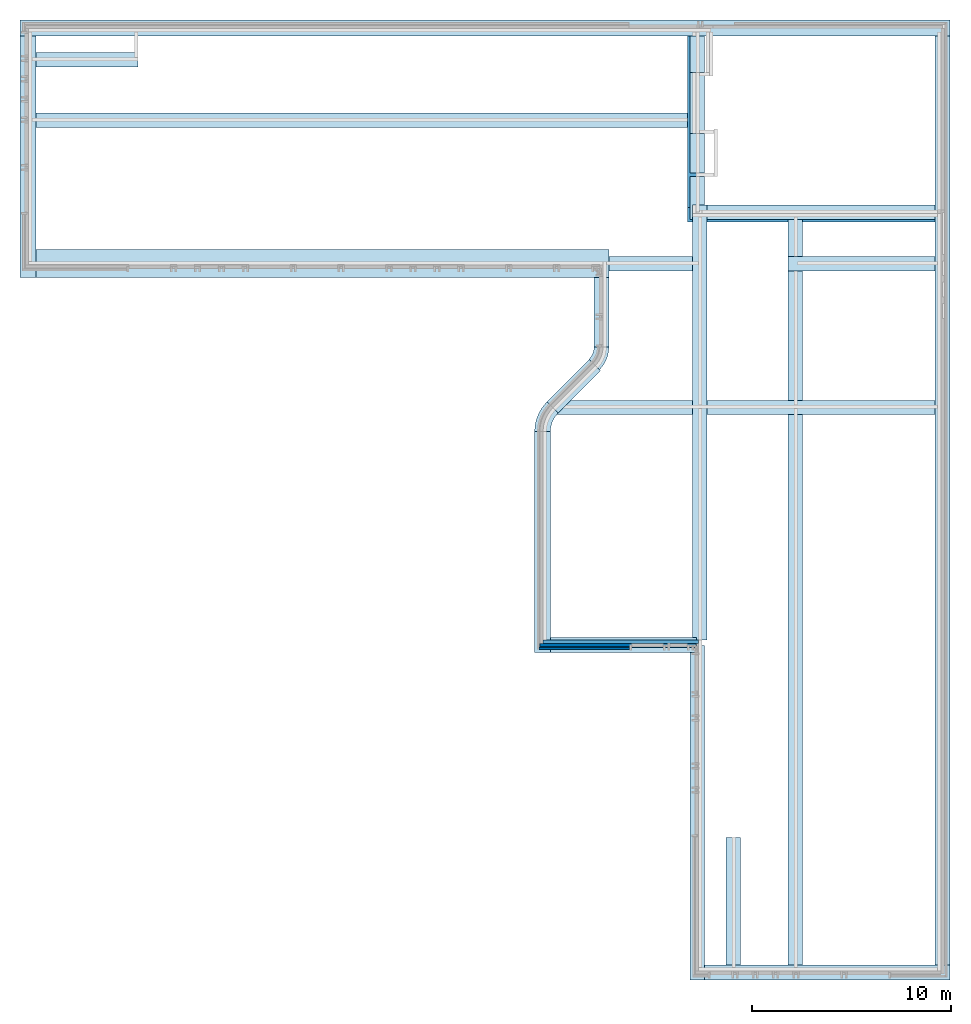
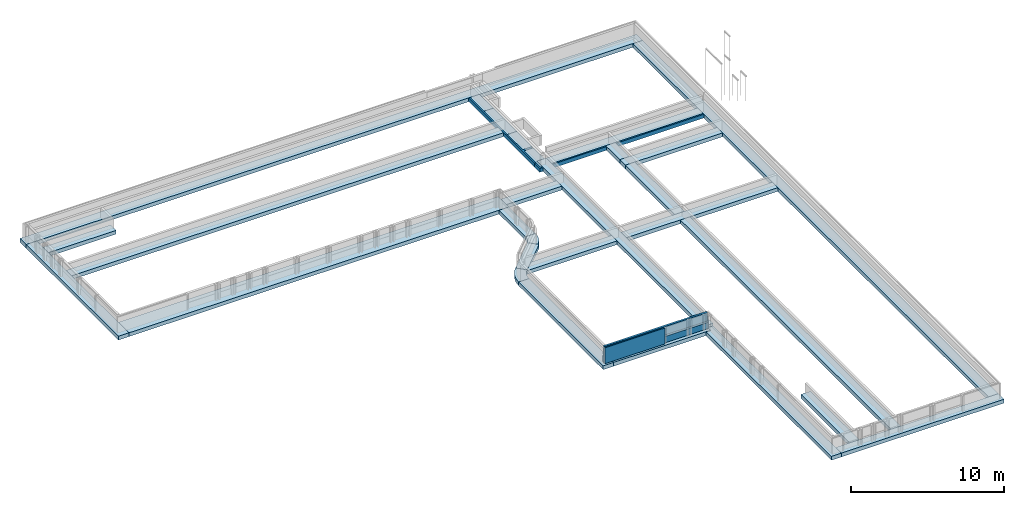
# One storey, part 1 of 15: 27 footings, 4 walls.
"""IFC2X3 building model written with IfcOpenShell, lengths in millimetres."""

from ifc_helpers import new_model, entity, si_unit, converted_unit, derived_unit, direction, frame, frame_2d, origin, origin_2d_with_axis, place, context, subcontext, project, spatial, polyline, circle_curve, parameter, trimmed, segment, composite_curve, rectangle, outline, extrude, material, layer, layer_set, layer_usage, type_object, element, save


model = new_model("IFC2X3")

# Units and contexts
model_context = context("Model", 3, precision=0.01, world=origin(), true_north=direction((6.123031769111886e-17, 1.0)))
body_context = subcontext(model_context, "Body", "Model", "MODEL_VIEW")
ifc_project = project(units=[si_unit("LENGTHUNIT", "METRE", prefix="MILLI"), si_unit("AREAUNIT", "SQUARE_METRE"), si_unit("VOLUMEUNIT", "CUBIC_METRE"), converted_unit("PLANEANGLEUNIT", "DEGREE", entity("IfcRatioMeasure", 0.017453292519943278), si_unit("PLANEANGLEUNIT", "RADIAN"), dimensions=[0, 0, 0, 0, 0, 0, 0]), si_unit("MASSUNIT", "GRAM", prefix="KILO"), derived_unit("MASSDENSITYUNIT", [(si_unit("MASSUNIT", "GRAM", prefix="KILO"), 1), (si_unit("LENGTHUNIT", "METRE"), -3)]), derived_unit("IONCONCENTRATIONUNIT", [(si_unit("MASSUNIT", "GRAM", prefix="KILO"), 1), (si_unit("LENGTHUNIT", "METRE"), -3)]), derived_unit("MOMENTOFINERTIAUNIT", [(si_unit("LENGTHUNIT", "METRE"), 4)]), si_unit("TIMEUNIT", "SECOND"), si_unit("FREQUENCYUNIT", "HERTZ"), si_unit("THERMODYNAMICTEMPERATUREUNIT", "DEGREE_CELSIUS"), derived_unit("THERMALTRANSMITTANCEUNIT", [(si_unit("MASSUNIT", "GRAM", prefix="KILO"), 1), (si_unit("THERMODYNAMICTEMPERATUREUNIT", "KELVIN"), -1), (si_unit("TIMEUNIT", "SECOND"), -3)]), derived_unit("THERMALCONDUCTANCEUNIT", [(si_unit("MASSUNIT", "GRAM", prefix="KILO"), 1), (si_unit("THERMODYNAMICTEMPERATUREUNIT", "KELVIN"), -1), (si_unit("TIMEUNIT", "SECOND"), -3), (si_unit("LENGTHUNIT", "METRE"), 1)]), derived_unit("VOLUMETRICFLOWRATEUNIT", [(si_unit("LENGTHUNIT", "METRE"), 3), (si_unit("TIMEUNIT", "SECOND"), -1)]), derived_unit("MASSFLOWRATEUNIT", [(si_unit("MASSUNIT", "GRAM", prefix="KILO"), 1), (si_unit("TIMEUNIT", "SECOND"), -1)]), derived_unit("ROTATIONALFREQUENCYUNIT", [(si_unit("TIMEUNIT", "SECOND"), -1)]), si_unit("ELECTRICCURRENTUNIT", "AMPERE"), si_unit("ELECTRICVOLTAGEUNIT", "VOLT"), si_unit("POWERUNIT", "WATT"), si_unit("FORCEUNIT", "NEWTON", prefix="KILO"), si_unit("ILLUMINANCEUNIT", "LUX"), si_unit("LUMINOUSFLUXUNIT", "LUMEN"), si_unit("LUMINOUSINTENSITYUNIT", "CANDELA"), derived_unit("USERDEFINED", [(si_unit("MASSUNIT", "GRAM", prefix="KILO"), -1), (si_unit("LENGTHUNIT", "METRE"), -2), (si_unit("TIMEUNIT", "SECOND"), 3), (si_unit("LUMINOUSFLUXUNIT", "LUMEN"), 1)]), derived_unit("USERDEFINED", [(si_unit("MASSUNIT", "GRAM", prefix="KILO"), 1), (si_unit("TIMEUNIT", "SECOND"), -3), (si_unit("LENGTHUNIT", "METRE"), 3), (si_unit("ELECTRICCURRENTUNIT", "AMPERE"), -2)]), derived_unit("SOUNDPOWERUNIT", [(si_unit("MASSUNIT", "GRAM", prefix="KILO"), 1), (si_unit("TIMEUNIT", "SECOND"), -3), (si_unit("LENGTHUNIT", "METRE"), 2)]), derived_unit("SOUNDPRESSUREUNIT", [(si_unit("MASSUNIT", "GRAM", prefix="KILO"), 1), (si_unit("LENGTHUNIT", "METRE"), -1), (si_unit("TIMEUNIT", "SECOND"), -2)]), derived_unit("LINEARVELOCITYUNIT", [(si_unit("LENGTHUNIT", "METRE"), 1), (si_unit("TIMEUNIT", "SECOND"), -1)]), si_unit("PRESSUREUNIT", "PASCAL"), derived_unit("USERDEFINED", [(si_unit("MASSUNIT", "GRAM", prefix="KILO"), 1), (si_unit("LENGTHUNIT", "METRE"), -2), (si_unit("TIMEUNIT", "SECOND"), -2)]), derived_unit("LINEARFORCEUNIT", [(si_unit("MASSUNIT", "GRAM", prefix="KILO"), 1), (si_unit("TIMEUNIT", "SECOND"), -2)]), derived_unit("PLANARFORCEUNIT", [(si_unit("MASSUNIT", "GRAM", prefix="KILO"), 1), (si_unit("LENGTHUNIT", "METRE"), -1), (si_unit("TIMEUNIT", "SECOND"), -2)]), derived_unit("SPECIFICHEATCAPACITYUNIT", [(si_unit("THERMODYNAMICTEMPERATUREUNIT", "KELVIN"), -1), (si_unit("LENGTHUNIT", "METRE"), 2), (si_unit("TIMEUNIT", "SECOND"), -2)]), derived_unit("HEATINGVALUEUNIT", [(si_unit("LENGTHUNIT", "METRE"), 2), (si_unit("TIMEUNIT", "SECOND"), -2)]), derived_unit("VAPORPERMEABILITYUNIT", [(si_unit("LENGTHUNIT", "METRE"), -1), (si_unit("TIMEUNIT", "SECOND"), 1)]), derived_unit("DYNAMICVISCOSITYUNIT", [(si_unit("MASSUNIT", "GRAM", prefix="KILO"), 1), (si_unit("TIMEUNIT", "SECOND"), -1), (si_unit("LENGTHUNIT", "METRE"), -1)]), derived_unit("THERMALEXPANSIONCOEFFICIENTUNIT", [(si_unit("THERMODYNAMICTEMPERATUREUNIT", "KELVIN"), -1)]), derived_unit("MODULUSOFELASTICITYUNIT", [(si_unit("MASSUNIT", "GRAM", prefix="KILO"), 1), (si_unit("LENGTHUNIT", "METRE"), -1), (si_unit("TIMEUNIT", "SECOND"), -2)]), derived_unit("ISOTHERMALMOISTURECAPACITYUNIT", [(si_unit("LENGTHUNIT", "METRE"), 3), (si_unit("MASSUNIT", "GRAM", prefix="KILO"), -1)]), derived_unit("MOISTUREDIFFUSIVITYUNIT", [(si_unit("TIMEUNIT", "SECOND"), -1), (si_unit("LENGTHUNIT", "METRE"), 2)])], contexts=[model_context])

# Site, building, storey
site_placement = place(None, frame((0.0, 300.0, 0.0)))
site = spatial("IfcSite", under=ifc_project, at=site_placement, Name="<Kadastrale nummers>", CompositionType="ELEMENT")
building_placement = place(site_placement, origin())
building = spatial("IfcBuilding", under=site, at=building_placement, CompositionType="ELEMENT")
storey_placement = place(building_placement, frame((0.0, 0.0, -1570.0)))
storey = spatial("IfcBuildingStorey", under=building, at=storey_placement, Name="-1 fundering", CompositionType="ELEMENT", Elevation=-1570.0)

# Footings
footing_1_placement = place(storey_placement, origin())
element("IfcFooting", 1, at=footing_1_placement, inside=storey, Name="Wall Foundation:300_16_strokenfundatie_300x800", ObjectType="Wall Foundation:300_16_strokenfundatie_300x800", PredefinedType="STRIP_FOOTING", context=body_context, shape_type="SweptSolid", body=[
    extrude(rectangle(XDim=46624.999999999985, YDim=795.0000000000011, at=frame_2d((-3496.402201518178, 220.83333333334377), x_axis=(1.0, 0.0))), frame((29308.902201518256, 49681.666666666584, 0.0)), (0.0, 0.0, 1.0), 300.0),
])
footing_2_placement = place(storey_placement, origin())
element("IfcFooting", 2, at=footing_2_placement, inside=storey, Name="Wall Foundation:300_16_strokenfundatie_300x800", ObjectType="Wall Foundation:300_16_strokenfundatie_300x800", PredefinedType="STRIP_FOOTING", context=body_context, shape_type="SweptSolid", body=[
    extrude(rectangle(XDim=12104.999999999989, YDim=795.0000000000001, at=frame_2d((-968.6111111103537, 220.83333333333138), x_axis=(1.0, 0.0))), frame((3118.333333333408, 44421.11111111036, 0.0), z_axis=(0.0, 0.0, 1.0), x_axis=(0.0, 1.0, 0.0)), (0.0, 0.0, 1.0), 300.0),
])
footing_3_placement = place(storey_placement, origin())
element("IfcFooting", 3, at=footing_3_placement, inside=storey, Name="Wall Foundation:300_16_strokenfundatie_300x1400", ObjectType="Wall Foundation:300_16_strokenfundatie_300x1400", PredefinedType="STRIP_FOOTING", context=body_context, shape_type="SweptSolid", body=[
    extrude(rectangle(XDim=28725.03691673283, YDim=1394.999999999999, at=frame_2d((6048.936482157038, -102.50000000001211), x_axis=(1.0, 0.0))), frame((23706.45494052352, 37995.0, 0.0), z_axis=(0.0, 0.0, 1.0), x_axis=(-1.0, 0.0, 0.0)), (0.0, 0.0, 1.0), 300.0),
])
footing_4_placement = place(storey_placement, origin())
element("IfcFooting", 4, at=footing_4_placement, inside=storey, Name="Wall Foundation:300_16_strokenfundatie_bi350/bu250/hg350", ObjectType="Wall Foundation:300_16_strokenfundatie_bi350/bu250/hg350", PredefinedType="STRIP_FOOTING", context=body_context, shape_type="SweptSolid", body=[
    extrude(rectangle(XDim=3488.0968310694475, YDim=744.9999999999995, at=frame_2d((-4.320099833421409e-12, -2.1600499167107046e-12), x_axis=(1.0, 0.0))), frame((31647.536916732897, 35655.9515844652, 0.0), z_axis=(0.0, 0.0, 1.0), x_axis=(0.0, 1.0, 0.0)), (0.0, 0.0, 1.0), 300.0),
])
footing_5_placement = place(storey_placement, origin())
element("IfcFooting", 5, at=footing_5_placement, inside=storey, Name="Wall Foundation:300_16_strokenfundatie_bi350/bu250/hg350", ObjectType="Wall Foundation:300_16_strokenfundatie_bi350/bu250/hg350", PredefinedType="STRIP_FOOTING", context=body_context, shape_type="SweptSolid", body=[
    extrude(outline(composite_curve([segment(trimmed(circle_curve(frame_2d((-1031.8462838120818, -352.8462838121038), x_axis=(1.0, 0.0)), 1620.0000000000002), [parameter(0.0)], [parameter(45.00000000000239)], True, "PARAMETER"), True, "CONTINUOUS"), segment(polyline([(113.66670171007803, 792.6667017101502), (-413.12785027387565, 265.8721497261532)]), True, "CONTINUOUS"), segment(trimmed(circle_curve(frame_2d((-1031.8462838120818, -352.8462838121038), x_axis=(1.0, 0.0)), 875.0000000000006), [parameter(0.0)], [parameter(45.00000000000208)], True, "PARAMETER"), False, "CONTINUOUS"), segment(polyline([(-156.8462838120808, -352.84628381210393), (-131.8462838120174, -352.8462838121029)]), True, "CONTINUOUS"), segment(polyline([(-131.8462838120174, -352.8462838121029), (588.1537161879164, -352.84628381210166)]), True, "CONTINUOUS")], self_intersect=False)), frame((31379.162421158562, 33431.77766450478, 0.0), z_axis=(0.0, 0.0, 1.0), x_axis=(0.7071067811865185, -0.7071067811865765, 0.0)), (0.0, 0.0, 1.0), 300.0),
])
footing_6_placement = place(storey_placement, origin())
element("IfcFooting", 6, at=footing_6_placement, inside=storey, Name="Wall Foundation:300_16_strokenfundatie_300x800", ObjectType="Wall Foundation:300_16_strokenfundatie_300x800", PredefinedType="STRIP_FOOTING", context=body_context, shape_type="SweptSolid", body=[
    extrude(rectangle(XDim=794.9999999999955, YDim=2999.9999999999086, at=frame_2d((-119.99999999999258, -152.13712787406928), x_axis=(1.0, 0.0))), frame((30449.277802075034, 31956.496329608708, 0.0), z_axis=(0.0, 0.0, 1.0), x_axis=(0.7071067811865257, -0.7071067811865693, 0.0)), (0.0, 0.0, 1.0), 300.0),
])
footing_7_placement = place(storey_placement, origin())
element("IfcFooting", 7, at=footing_7_placement, inside=storey, Name="Wall Foundation:300_16_strokenfundatie_300x800", ObjectType="Wall Foundation:300_16_strokenfundatie_300x800", PredefinedType="STRIP_FOOTING", context=body_context, shape_type="SweptSolid", body=[
    extrude(outline(composite_curve([segment(polyline([(-741.8437169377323, -654.3261742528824), (53.15628306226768, -654.3261742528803)]), True, "CONTINUOUS"), segment(trimmed(circle_curve(frame_2d((1358.1562830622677, -654.3261742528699), x_axis=(-1.0, 0.0)), 1304.999999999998), [parameter(318.5461116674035)], [parameter(359.9999999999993)], True, "PARAMETER"), False, "CONTINUOUS"), segment(trimmed(circle_curve(frame_2d((1358.1562830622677, -654.3261742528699), x_axis=(-1.0, 0.0)), 1304.999999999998), [parameter(314.9999999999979)], [parameter(318.5461116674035)], True, "PARAMETER"), False, "CONTINUOUS"), segment(polyline([(435.38193361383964, 268.4481751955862), (-126.7679574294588, 830.5980662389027)]), True, "CONTINUOUS"), segment(trimmed(circle_curve(frame_2d((1358.1562830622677, -654.3261742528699), x_axis=(-1.0, 0.0)), 2099.999999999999), [parameter(314.9999999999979)], [parameter(359.99999999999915)], True, "PARAMETER"), True, "CONTINUOUS")], self_intersect=False)), frame((29041.88063367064, 30323.588656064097, 0.0)), (0.0, 0.0, 1.0), 300.0),
])
footing_8_placement = place(storey_placement, origin())
element("IfcFooting", 8, at=footing_8_placement, inside=storey, Name="Wall Foundation:300_16_strokenfundatie_300x800", ObjectType="Wall Foundation:300_16_strokenfundatie_300x800", PredefinedType="STRIP_FOOTING", context=body_context, shape_type="SweptSolid", body=[
    extrude(rectangle(XDim=795.0000000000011, YDim=11064.263858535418, at=frame_2d((-79.49999999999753, 957.4263858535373), x_axis=(1.0, 0.0))), frame((28777.036916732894, 23179.70416668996, 0.0)), (0.0, 0.0, 1.0), 300.0),
])
footing_9_placement = place(storey_placement, origin())
element("IfcFooting", 9, at=footing_9_placement, inside=storey, Name="Wall Foundation:300_16_strokenfundatie_bi350/bu250/hg350", ObjectType="Wall Foundation:300_16_strokenfundatie_bi350/bu250/hg350", PredefinedType="STRIP_FOOTING", context=body_context, shape_type="SweptSolid", body=[
    extrude(rectangle(XDim=7329.963083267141, YDim=744.9999999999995, at=frame_2d((1763.7407708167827, 28.74999999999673), x_axis=(1.0, 0.0))), frame((34523.75922918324, 19006.248623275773, 0.0), z_axis=(0.0, 0.0, 1.0), x_axis=(-1.0, 0.0, 0.0)), (0.0, 0.0, 1.0), 300.0),
])
footing_10_placement = place(storey_placement, origin())
element("IfcFooting", 10, at=footing_10_placement, inside=storey, Name="Wall Foundation:300_16_strokenfundatie_bi350/bu250/hg350", ObjectType="Wall Foundation:300_16_strokenfundatie_bi350/bu250/hg350", PredefinedType="STRIP_FOOTING", context=body_context, shape_type="SweptSolid", body=[
    extrude(outline(polyline([(-325.71428571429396, -7185.0), (69.2857142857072, -7185.0), (69.2857142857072, -6835.0), (419.2857142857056, -6835.0), (419.28571428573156, 9595.0), (-325.714285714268, 9595.0), (-325.714285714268, 8850.0), (-325.71428571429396, -7185.0)])), frame((36494.28571428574, 11769.998623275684, 0.0), z_axis=(0.0, 0.0, 1.0), x_axis=(-1.0, 0.0, 0.0)), (0.0, 0.0, 1.0), 300.0),
])
footing_11_placement = place(storey_placement, origin())
element("IfcFooting", 11, at=footing_11_placement, inside=storey, Name="Wall Foundation:300_16_strokenfundatie_bi350/bu250/hg350", ObjectType="Wall Foundation:300_16_strokenfundatie_bi350/bu250/hg350", PredefinedType="STRIP_FOOTING", context=body_context, shape_type="SweptSolid", body=[
    extrude(rectangle(XDim=12304.999999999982, YDim=744.9999999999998, at=frame_2d((-803.6111111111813, 206.94444444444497), x_axis=(1.0, 0.0))), frame((42168.88888888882, 2754.443067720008, 0.0), z_axis=(0.0, 0.0, 1.0), x_axis=(-1.0, 0.0, 0.0)), (0.0, 0.0, 1.0), 300.0),
])
footing_12_placement = place(storey_placement, origin())
element("IfcFooting", 12, at=footing_12_placement, inside=storey, Name="Wall Foundation:300_16_strokenfundatie_bi350/bu250/hg350", ObjectType="Wall Foundation:300_16_strokenfundatie_bi350/bu250/hg350", PredefinedType="STRIP_FOOTING", context=body_context, shape_type="SweptSolid", body=[
    extrude(rectangle(XDim=46585.00137672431, YDim=745.0000000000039, at=frame_2d((6903.864074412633, 237.0454545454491), x_axis=(1.0, 0.0))), frame((48515.45454545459, 33116.36338605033, 0.0), z_axis=(0.0, 0.0, 1.0), x_axis=(0.0, -1.0, 0.0)), (0.0, 0.0, 1.0), 300.0),
])
footing_13_placement = place(storey_placement, origin())
element("IfcFooting", 13, at=footing_13_placement, inside=storey, Name="Wall Foundation:300_16_strokenfundatie_bi350/bu250/hg350", ObjectType="Wall Foundation:300_16_strokenfundatie_bi350/bu250/hg350", PredefinedType="STRIP_FOOTING", context=body_context, shape_type="SweptSolid", body=[
    extrude(rectangle(XDim=32675.039937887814, YDim=724.9999999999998, at=frame_2d((-9.094947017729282e-13, -4.320099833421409e-12), x_axis=(1.0, 0.0))), frame((19632.519968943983, 45275.0, 0.0), z_axis=(0.0, 0.0, 1.0), x_axis=(-1.0, 0.0, 0.0)), (0.0, 0.0, 1.0), 300.0),
])
footing_14_placement = place(storey_placement, origin())
element("IfcFooting", 14, at=footing_14_placement, inside=storey, Name="Wall Foundation:300_16_strokenfundatie_bi350/bu250/hg350", ObjectType="Wall Foundation:300_16_strokenfundatie_bi350/bu250/hg350", PredefinedType="STRIP_FOOTING", context=body_context, shape_type="SweptSolid", body=[
    extrude(outline(polyline([(-411.46823894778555, -8032.64738275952), (-266.5081768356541, -8032.64738275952), (313.5317610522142, -8032.64738275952), (313.5317610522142, -7302.647382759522), (313.5317610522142, -7192.647382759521), (313.53176105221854, -5457.647382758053), (313.53176105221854, -4732.647382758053), (313.53176105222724, 1754.8526172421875), (313.53176105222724, 2479.8526172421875), (313.5317610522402, 13642.35399396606), (113.53176105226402, 13642.35399396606), (113.53176105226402, 13762.353993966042), (-411.4682389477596, 13762.353993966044), (-411.46823894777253, 2479.8526172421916), (-411.46823894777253, 1754.8526172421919), (-411.46823894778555, -7192.647382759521), (-411.46823894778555, -7302.647382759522), (-411.46823894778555, -8032.64738275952)])), frame((36538.5317610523, 32992.35261724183, 0.0), z_axis=(0.0, 0.0, 1.0), x_axis=(-1.0, 0.0, 0.0)), (0.0, 0.0, 1.0), 300.0),
])
footing_15_placement = place(storey_placement, origin())
element("IfcFooting", 15, at=footing_15_placement, inside=storey, Name="Wall Foundation:300_16_strokenfundatie_bi350/bu250/hg350", ObjectType="Wall Foundation:300_16_strokenfundatie_bi350/bu250/hg350", PredefinedType="STRIP_FOOTING", context=body_context, shape_type="SweptSolid", body=[
    extrude(rectangle(XDim=4204.9630832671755, YDim=724.9999999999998, at=frame_2d((2.2737367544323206e-12, 2.1600499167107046e-12), x_axis=(1.0, 0.0))), frame((34122.51845836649, 38087.49999999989, 0.0), z_axis=(0.0, 0.0, 1.0), x_axis=(-1.0, 0.0, 0.0)), (0.0, 0.0, 1.0), 300.0),
])
footing_16_placement = place(storey_placement, origin())
element("IfcFooting", 16, at=footing_16_placement, inside=storey, Name="Wall Foundation:300_16_strokenfundatie_bi350/bu250/hg350", ObjectType="Wall Foundation:300_16_strokenfundatie_bi350/bu250/hg350", PredefinedType="STRIP_FOOTING", context=body_context, shape_type="SweptSolid", body=[
    extrude(rectangle(XDim=7367.49999999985, YDim=724.9999999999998, at=frame_2d((986.249999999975, -2.1884716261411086e-12), x_axis=(1.0, 0.0))), frame((43710.0, 38087.499999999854, 0.0)), (0.0, 0.0, 1.0), 300.0),
])
footing_17_placement = place(storey_placement, origin())
element("IfcFooting", 17, at=footing_17_placement, inside=storey, Name="Wall Foundation:300_16_strokenfundatie_bi350/bu250/hg350", ObjectType="Wall Foundation:300_16_strokenfundatie_bi350/bu250/hg350", PredefinedType="STRIP_FOOTING", context=body_context, shape_type="SweptSolid", body=[
    extrude(outline(composite_curve([segment(trimmed(circle_curve(frame_2d((1415.6124976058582, 1101.6094505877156), x_axis=(1.0, 0.0)), 1304.999999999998), [parameter(314.99999999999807)], [parameter(318.5461116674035)], True, "PARAMETER"), True, "CONTINUOUS"), segment(polyline([(2393.695322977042, 237.67716926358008), (2393.695322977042, 258.3719323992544)]), True, "CONTINUOUS"), segment(polyline([(2393.695322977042, 258.3719323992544), (-4409.350585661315, 258.37193239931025)]), True, "CONTINUOUS"), segment(polyline([(-4409.350585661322, 258.37193239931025), (-4409.350585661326, -466.62806760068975)]), True, "CONTINUOUS"), segment(polyline([(-4409.350585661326, -466.62806760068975), (1692.9236783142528, -466.6280676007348)]), True, "CONTINUOUS"), segment(polyline([(1692.9236783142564, -466.6280676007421), (2338.3868470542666, 178.83510113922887)]), True, "CONTINUOUS")], self_intersect=False)), frame((31815.64941433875, 30770.871932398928, 0.0), z_axis=(0.0, 0.0, 1.0), x_axis=(-1.0, 0.0, 0.0)), (0.0, 0.0, 1.0), 300.0),
    extrude(rectangle(XDim=11429.999999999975, YDim=724.9999999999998, at=frame_2d((-644.9999999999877, -1.9326762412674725e-12), x_axis=(1.0, 0.0))), frame((42020.0, 30875.0, 0.0), z_axis=(0.0, 0.0, 1.0), x_axis=(-1.0, 0.0, 0.0)), (0.0, 0.0, 1.0), 300.0),
])
footing_18_placement = place(storey_placement, origin())
element("IfcFooting", 18, at=footing_18_placement, inside=storey, Name="Wall Foundation:300_16_strokenfundatie_bi350/bu250/hg350", ObjectType="Wall Foundation:300_16_strokenfundatie_bi350/bu250/hg350", PredefinedType="STRIP_FOOTING", context=body_context, shape_type="SweptSolid", body=[
    extrude(rectangle(XDim=724.9999999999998, YDim=1845.0000000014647, at=frame_2d((0.0, 270.83333333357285), x_axis=(1.0, 0.0))), frame((41375.0, 39643.33333333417, 0.0), z_axis=(0.0, 0.0, 1.0), x_axis=(-1.0, 0.0, 0.0)), (0.0, 0.0, 1.0), 300.0),
    extrude(rectangle(XDim=27592.50137672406, YDim=724.9999999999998, at=frame_2d((0.0, 8.640199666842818e-12), x_axis=(1.0, 0.0))), frame((41375.0, 16716.249311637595, 0.0), z_axis=(0.0, 0.0, 1.0), x_axis=(0.0, 1.0, 0.0)), (0.0, 0.0, 1.0), 300.0),
    extrude(rectangle(XDim=6487.500000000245, YDim=724.9999999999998, at=origin_2d_with_axis()), frame((41375.0, 34481.249999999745, 0.0), z_axis=(0.0, 0.0, 1.0), x_axis=(0.0, -1.0, 0.0)), (0.0, 0.0, 1.0), 300.0),
])
footing_19_placement = place(storey_placement, origin())
element("IfcFooting", 19, at=footing_19_placement, inside=storey, Name="Wall Foundation:300_16_strokenfundatie_bi350/bu250/hg350", ObjectType="Wall Foundation:300_16_strokenfundatie_bi350/bu250/hg350", PredefinedType="STRIP_FOOTING", context=body_context, shape_type="SweptSolid", body=[
    extrude(rectangle(XDim=6390.000000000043, YDim=724.9999999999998, at=frame_2d((4.547473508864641e-13, -2.1600499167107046e-12), x_axis=(1.0, 0.0))), frame((38250.0, 6114.998623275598, 0.0), z_axis=(0.0, 0.0, 1.0), x_axis=(0.0, -1.0, 0.0)), (0.0, 0.0, 1.0), 300.0),
])
footing_20_placement = place(storey_placement, origin())
element("IfcFooting", 20, at=footing_20_placement, inside=storey, Name="Wall Foundation:300_16_strokenfundatie_bi350/bu250/hg350", ObjectType="Wall Foundation:300_16_strokenfundatie_bi350/bu250/hg350", PredefinedType="STRIP_FOOTING", context=body_context, shape_type="SweptSolid", body=[
    extrude(rectangle(XDim=1825.0000000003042, YDim=724.9999999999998, at=frame_2d((0.0, 2.1600499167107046e-12), x_axis=(1.0, 0.0))), frame((36442.53993788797, 48592.49999999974, 0.0), z_axis=(0.0, 0.0, 1.0), x_axis=(0.0, 1.0, 0.0)), (0.0, 0.0, 1.0), 300.0),
])
footing_21_placement = place(storey_placement, origin())
element("IfcFooting", 21, at=footing_21_placement, inside=storey, Name="Wall Foundation:300_16_strokenfundatie_bi350/bu250/hg350", ObjectType="Wall Foundation:300_16_strokenfundatie_bi350/bu250/hg350", PredefinedType="STRIP_FOOTING", context=body_context, shape_type="SweptSolid", body=[
    extrude(rectangle(XDim=1999.1883200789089, YDim=724.9999999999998, at=frame_2d((-199.91883200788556, -47.49999999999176), x_axis=(1.0, 0.0))), frame((36490.039937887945, 43421.80033070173, 0.0), z_axis=(0.0, 0.0, 1.0), x_axis=(0.0, -1.0, 0.0)), (0.0, 0.0, 1.0), 300.0),
])
footing_22_placement = place(storey_placement, origin())
element("IfcFooting", 22, at=footing_22_placement, inside=storey, Name="Wall Foundation:300_16_strokenfundatie_bi350/bu250/hg350", ObjectType="Wall Foundation:300_16_strokenfundatie_bi350/bu250/hg350", PredefinedType="STRIP_FOOTING", context=body_context, shape_type="SweptSolid", body=[
    extrude(rectangle(XDim=3058.686677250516, YDim=724.9999999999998, at=origin_2d_with_axis()), frame((36442.53993788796, 46150.65666137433, 0.0), z_axis=(0.0, 0.0, 1.0), x_axis=(0.0, -1.0, 0.0)), (0.0, 0.0, 1.0), 300.0),
])
footing_23_placement = place(storey_placement, origin())
element("IfcFooting", 23, at=footing_23_placement, inside=storey, Name="Wall Foundation:300_16_strokenfundatie_bi350/bu250/hg350", ObjectType="Wall Foundation:300_16_strokenfundatie_bi350/bu250/hg350", PredefinedType="STRIP_FOOTING", context=body_context, shape_type="SweptSolid", body=[
    extrude(outline(polyline([(-1087.5781266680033, -292.4900155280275), (464.5468760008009, -292.49001552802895), (1064.5468760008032, -292.4900155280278), (1064.5468760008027, -147.52995341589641), (334.5468760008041, -147.52995341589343), (334.54687600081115, 432.50998447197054), (-1087.5781266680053, 432.50998447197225), (-1087.5781266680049, 307.5099844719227), (-1087.5781266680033, -292.4900155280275)])), frame((36372.52995341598, 41359.54687600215, 0.0), z_axis=(0.0, 0.0, 1.0), x_axis=(0.0, -1.0, 0.0)), (0.0, 0.0, 1.0), 300.0),
])
footing_24_placement = place(storey_placement, origin())
element("IfcFooting", 24, at=footing_24_placement, inside=storey, Name="Wall Foundation:300_16_strokenfundatie_bi350/bu250/hg350", ObjectType="Wall Foundation:300_16_strokenfundatie_bi350/bu250/hg350", PredefinedType="STRIP_FOOTING", context=body_context, shape_type="SweptSolid", body=[
    extrude(rectangle(XDim=11429.999999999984, YDim=729.9999999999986, at=frame_2d((-429.9999999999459, -121.66666666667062), x_axis=(1.0, 0.0))), frame((42235.0, 40538.33333333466, 0.0), z_axis=(0.0, 0.0, 1.0), x_axis=(-1.0, 0.0, 0.0)), (0.0, 0.0, 1.0), 300.0),
])
footing_25_placement = place(storey_placement, origin())
element("IfcFooting", 25, at=footing_25_placement, inside=storey, Name="Wall Foundation:300_16_strokenfundatie_bi350/bu250/hg350", ObjectType="Wall Foundation:300_16_strokenfundatie_bi350/bu250/hg350", PredefinedType="STRIP_FOOTING", context=body_context, shape_type="SweptSolid", body=[
    extrude(rectangle(XDim=5116.0000000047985, YDim=724.9999999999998, at=frame_2d((-1.1368683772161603e-12, 4.320099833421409e-12), x_axis=(1.0, 0.0))), frame((5853.0, 48317.49999999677, 0.0), z_axis=(0.0, 0.0, 1.0), x_axis=(-1.0, 0.0, 0.0)), (0.0, 0.0, 1.0), 300.0),
])
footing_26_placement = place(storey_placement, origin())
element("IfcFooting", 26, at=footing_26_placement, inside=storey, Name="Wall Foundation:300_16_strokenfundatie_bi350/bu250/hg350", ObjectType="Wall Foundation:300_16_strokenfundatie_bi350/bu250/hg350", PredefinedType="STRIP_FOOTING", context=body_context, shape_type="SweptSolid", body=[
    extrude(outline(polyline([(-121.65335403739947, -273.3333333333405), (133.3067080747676, -273.3333333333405), (133.3067080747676, -163.3333333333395), (-11.65335403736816, -163.3333333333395), (-11.65335403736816, 436.6666666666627), (-121.6533540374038, 436.6666666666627), (-121.65335403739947, -273.3333333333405)])), frame((36091.693291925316, 40458.33333333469, 0.0)), (0.0, 0.0, 1.0), 300.0),
    extrude(rectangle(XDim=110.0000000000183, YDim=6642.499999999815, at=frame_2d((4.330757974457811e-12, 0.0), x_axis=(1.0, 0.0))), frame((45058.750000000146, 40240.0, 0.0), z_axis=(0.0, 0.0, 1.0), x_axis=(0.0, 1.0, 0.0)), (0.0, 0.0, 1.0), 300.0),
    extrude(rectangle(XDim=110.00000000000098, YDim=4062.500000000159, at=frame_2d((-4.330757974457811e-12, 0.0), x_axis=(1.0, 0.0))), frame((38981.25000000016, 40240.0, 0.0), z_axis=(0.0, 0.0, 1.0), x_axis=(0.0, 1.0, 0.0)), (0.0, 0.0, 1.0), 300.0),
])
footing_27_placement = place(storey_placement, origin())
element("IfcFooting", 27, at=footing_27_placement, inside=storey, Name="Wall Foundation:300_16_strokenfundatie_bi350/bu250/hg350", ObjectType="Wall Foundation:300_16_strokenfundatie_bi350/bu250/hg350", PredefinedType="STRIP_FOOTING", context=body_context, shape_type="SweptSolid", body=[
    extrude(outline(polyline([(63.33333333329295, -5022.515555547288), (173.33333333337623, -5022.515555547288), (173.33333333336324, -1155.0155555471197), (173.3333333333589, -430.01555554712), (173.3333333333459, 3587.4844444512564), (63.33333333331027, 3587.4844444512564), (63.333333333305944, 2035.3594417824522), (-536.6666666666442, 2035.3594417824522), (-536.6666666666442, 1860.3594417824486), (63.333333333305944, 1860.3594417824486), (63.33333333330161, -138.82887829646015), (63.333333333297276, -3197.515555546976), (63.33333333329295, -5022.515555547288)])), frame((36143.37327122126, 44482.48444445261, 0.0), z_axis=(0.0, 0.0, 1.0), x_axis=(-1.0, 0.0, 0.0)), (0.0, 0.0, 1.0), 300.0),
])

# Walls
ifc_material_1 = material(Name="ISR_Metselwerk")
ifc_layer_1 = layer(ifc_material_1, 100.0)
ifc_layer_set_1 = layer_set([ifc_layer_1], Name="Basic Wall:21_DAT_metselwerk_100")
ifc_layer_usage_1 = layer_usage(ifc_layer_set_1, "AXIS2", "NEGATIVE", 50.0)
wall_type_1 = type_object("IfcWallType", Name="Basic Wall:21_DAT_metselwerk_100", PredefinedType="STANDARD", material=ifc_layer_set_1)
wall_1_placement = place(storey_placement, frame((33060.0, 18804.998623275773, 300.0), z_axis=(0.0, 0.0, 1.0), x_axis=(-1.0, 0.0, 0.0)))
element("IfcWallStandardCase", 28, at=wall_1_placement, inside=storey, type_object=wall_type_1, material=ifc_layer_usage_1, Name="Basic Wall:21_DAT_metselwerk_100", ObjectType="Basic Wall:21_DAT_metselwerk_100", context=body_context, shape_type="SweptSolid", body=[
    extrude(rectangle(XDim=4534.963083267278, YDim=99.99999999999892, at=frame_2d((2267.481541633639, -2.7711166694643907e-13), x_axis=(-1.0, 0.0))), origin(), (0.0, 0.0, 1.0), 1270.0000000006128),
])
ifc_material_2 = material(Name="ISR_Gips")
ifc_layer_2 = layer(ifc_material_2, 1.0)
ifc_material_3 = material(Name="ISR_Kalkzandsteen")
ifc_layer_3 = layer(ifc_material_3, 173.0)
ifc_layer_4 = layer(ifc_material_2, 1.0)
ifc_layer_set_2 = layer_set([ifc_layer_2, ifc_layer_3, ifc_layer_4], Name="Basic Wall:28_DAT_kalkzandsteen_175mm")
ifc_layer_usage_2 = layer_usage(ifc_layer_set_2, "AXIS2", "NEGATIVE", 87.49999999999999)
wall_type_2 = type_object("IfcWallType", Name="Basic Wall:28_DAT_kalkzandsteen_175mm", PredefinedType="STANDARD", material=ifc_layer_set_2)
wall_2_placement = place(storey_placement, frame((36525.0, 19142.498623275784, 300.0), z_axis=(0.0, 0.0, 1.0), x_axis=(-1.0, 0.0, 0.0)))
element("IfcWallStandardCase", 29, at=wall_2_placement, inside=storey, type_object=wall_type_2, material=ifc_layer_usage_2, Name="Basic Wall:28_DAT_kalkzandsteen_175mm", ObjectType="Basic Wall:28_DAT_kalkzandsteen_175mm", context=body_context, shape_type="SweptSolid", body=[
    extrude(rectangle(XDim=7799.963083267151, YDim=174.9999999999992, at=frame_2d((3899.9815416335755, 0.0), x_axis=(-1.0, 0.0))), origin(), (0.0, 0.0, 1.0), 800.0000000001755),
])
ifc_material_4 = material(Name="ISR_Isolatie")
ifc_layer_5 = layer(ifc_material_4, 160.0)
ifc_layer_set_3 = layer_set([ifc_layer_5], Name="Basic Wall:21_DAT_isolatie minerale wol_160")
ifc_layer_usage_3 = layer_usage(ifc_layer_set_3, "AXIS2", "NEGATIVE", 80.0)
wall_type_3 = type_object("IfcWallType", Name="Basic Wall:21_DAT_isolatie minerale wol_160", PredefinedType="STANDARD", material=ifc_layer_set_3)
wall_3_placement = place(storey_placement, frame((36365.0, 18974.998623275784, 900.0), z_axis=(0.0, 0.0, 1.0), x_axis=(-1.0, 0.0, 0.0)))
element("IfcWallStandardCase", 30, at=wall_3_placement, inside=storey, type_object=wall_type_3, material=ifc_layer_usage_3, Name="Basic Wall:21_DAT_isolatie minerale wol_160", ObjectType="Basic Wall:21_DAT_isolatie minerale wol_160", context=body_context, shape_type="SweptSolid", body=[
    extrude(rectangle(XDim=7799.963083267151, YDim=159.9999999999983, at=frame_2d((3899.9815416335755, -3.197442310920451e-13), x_axis=(-1.0, 0.0))), origin(), (0.0, 0.0, 1.0), 670.0000000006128),
])
ifc_material_5 = material(Name="ISR_Speci ihwg(1)")
ifc_layer_6 = layer(ifc_material_5, 195.0)
ifc_layer_set_4 = layer_set([ifc_layer_6], Name="Basic Wall:28_DAT_ihw specie")
ifc_layer_usage_4 = layer_usage(ifc_layer_set_4, "AXIS2", "NEGATIVE", 97.5)
wall_type_4 = type_object("IfcWallType", Name="Basic Wall:28_DAT_ihw specie", PredefinedType="STANDARD", material=ifc_layer_set_4)
wall_4_placement = place(storey_placement, frame((36425.0, 18952.498623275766, 300.0), z_axis=(0.0, 0.0, 1.0), x_axis=(-1.0, 0.0, 0.0)))
element("IfcWallStandardCase", 31, at=wall_4_placement, inside=storey, type_object=wall_type_4, material=ifc_layer_usage_4, Name="Basic Wall:28_DAT_ihw specie", ObjectType="Basic Wall:28_DAT_ihw specie", context=body_context, shape_type="SweptSolid", body=[
    extrude(rectangle(XDim=7899.963083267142, YDim=194.99999999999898, at=frame_2d((3949.981541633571, -1.5631940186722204e-13), x_axis=(-1.0, 0.0))), origin(), (0.0, 0.0, 1.0), 500.00000000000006),
])

save(model, "model.ifc")
